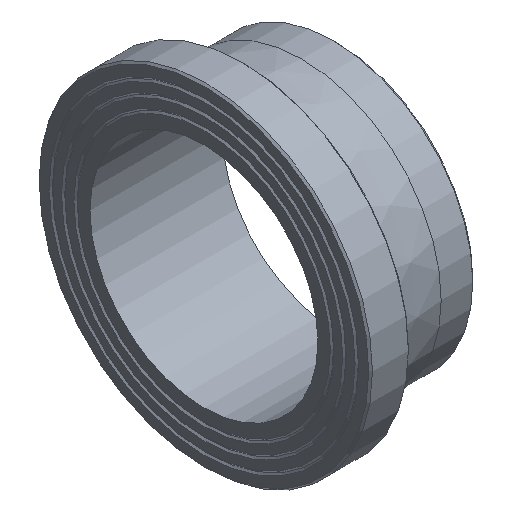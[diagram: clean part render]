
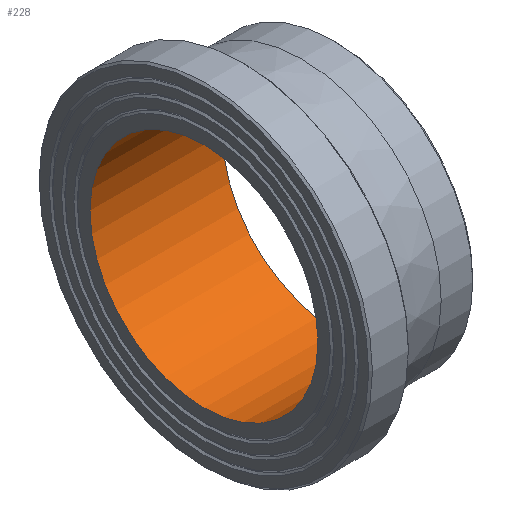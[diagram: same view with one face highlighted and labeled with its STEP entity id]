
A CAD part, isometric view. The second image highlights one B-rep face of the part: STEP entity #228.
In plain terms, the highlighted cylindrical face has radius 92 mm (diameter 184 mm), a full revolution.
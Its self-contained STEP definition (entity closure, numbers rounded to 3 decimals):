
#33=CYLINDRICAL_SURFACE('',#274,92.);
#50=ORIENTED_EDGE('',*,*,#79,.F.);
#51=ORIENTED_EDGE('',*,*,#76,.T.);
#76=EDGE_CURVE('',#96,#96,#116,.T.);
#79=EDGE_CURVE('',#99,#99,#119,.T.);
#96=VERTEX_POINT('',#383);
#99=VERTEX_POINT('',#390);
#116=CIRCLE('',#257,92.);
#119=CIRCLE('',#261,92.);
#150=EDGE_LOOP('',(#50));
#151=EDGE_LOOP('',(#51));
#190=FACE_BOUND('',#150,.T.);
#191=FACE_BOUND('',#151,.T.);
#228=ADVANCED_FACE('',(#190,#191),#33,.F.);
#257=AXIS2_PLACEMENT_3D('',#382,#303,#304);
#261=AXIS2_PLACEMENT_3D('',#389,#311,#312);
#274=AXIS2_PLACEMENT_3D('',#410,#337,#338);
#303=DIRECTION('',(-1.,0.,0.));
#304=DIRECTION('',(0.,0.,1.));
#311=DIRECTION('',(-1.,0.,0.));
#312=DIRECTION('',(0.,0.,1.));
#337=DIRECTION('',(-1.,0.,0.));
#338=DIRECTION('',(0.,0.,1.));
#382=CARTESIAN_POINT('',(0.,0.,0.));
#383=CARTESIAN_POINT('',(0.,0.,92.));
#389=CARTESIAN_POINT('',(107.,0.,0.));
#390=CARTESIAN_POINT('',(107.,0.,92.));
#410=CARTESIAN_POINT('',(60.,0.,0.));
